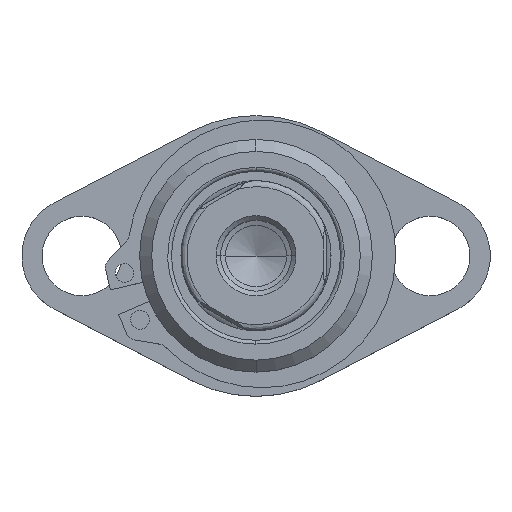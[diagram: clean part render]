
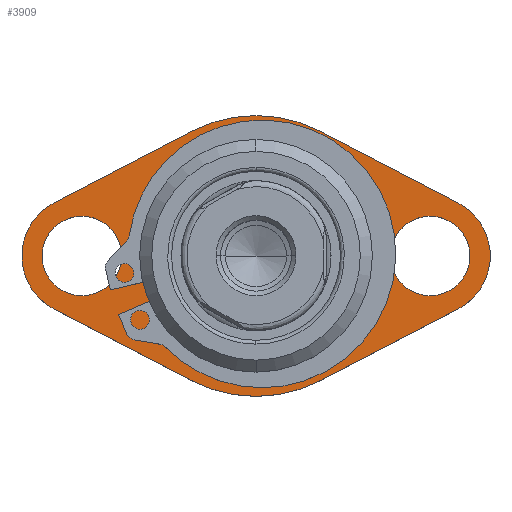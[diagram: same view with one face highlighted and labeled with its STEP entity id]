
A CAD part, top view. The second image highlights one B-rep face of the part: STEP entity #3909.
In plain terms, the highlighted planar face has unit normal (0, 0, 1) as drawn and (0, 1, 0) by its records, which use the part's own axes.
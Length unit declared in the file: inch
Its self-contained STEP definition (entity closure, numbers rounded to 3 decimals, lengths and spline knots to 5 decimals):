
#1 = CARTESIAN_POINT ( 'NONE',  ( 0., 0.25, 0. ) ) ;
#73 = CIRCLE ( 'NONE', #482, 0.775 ) ;
#113 = AXIS2_PLACEMENT_3D ( 'NONE', #2738, #2754, #5270 ) ;
#146 = ORIENTED_EDGE ( 'NONE', *, *, #2349, .T. ) ;
#163 = VERTEX_POINT ( 'NONE', #1307 ) ;
#229 = DIRECTION ( 'NONE',  ( 0., 1., 0. ) ) ;
#308 = LINE ( 'NONE', #4224, #4376 ) ;
#444 = VERTEX_POINT ( 'NONE', #3186 ) ;
#449 = VERTEX_POINT ( 'NONE', #1109 ) ;
#464 = DIRECTION ( 'NONE',  ( 0.887, 0., -0.461 ) ) ;
#476 = VERTEX_POINT ( 'NONE', #1186 ) ;
#482 = AXIS2_PLACEMENT_3D ( 'NONE', #2351, #4040, #1981 ) ;
#505 = FACE_BOUND ( 'NONE', #1018, .T. ) ;
#515 = CIRCLE ( 'NONE', #4706, 0.935 ) ;
#704 = VECTOR ( 'NONE', #4127, 39.37008 ) ;
#712 = EDGE_CURVE ( 'NONE', #3363, #4710, #308, .T. ) ;
#742 = ORIENTED_EDGE ( 'NONE', *, *, #2182, .T. ) ;
#790 = CARTESIAN_POINT ( 'NONE',  ( 0., 0.25, 0. ) ) ;
#831 = VERTEX_POINT ( 'NONE', #3131 ) ;
#832 = CIRCLE ( 'NONE', #113, 0.265 ) ;
#838 = CIRCLE ( 'NONE', #4311, 0.4 ) ;
#999 = EDGE_CURVE ( 'NONE', #831, #476, #515, .T. ) ;
#1006 = EDGE_CURVE ( 'NONE', #5108, #476, #2588, .T. ) ;
#1018 = EDGE_LOOP ( 'NONE', ( #1879, #2378 ) ) ;
#1104 = DIRECTION ( 'NONE',  ( 0., -1., 0. ) ) ;
#1109 = CARTESIAN_POINT ( 'NONE',  ( 1.16, 0.25, 0.265 ) ) ;
#1125 = DIRECTION ( 'NONE',  ( 0., -1., 0. ) ) ;
#1131 = CIRCLE ( 'NONE', #1305, 0.265 ) ;
#1170 = CARTESIAN_POINT ( 'NONE',  ( 1.34448, 0.25, 0.35492 ) ) ;
#1186 = CARTESIAN_POINT ( 'NONE',  ( -0.43123, 0.25, 0.82962 ) ) ;
#1217 = VERTEX_POINT ( 'NONE', #2210 ) ;
#1277 = EDGE_CURVE ( 'NONE', #1217, #3151, #832, .T. ) ;
#1305 = AXIS2_PLACEMENT_3D ( 'NONE', #3621, #1125, #4056 ) ;
#1307 = CARTESIAN_POINT ( 'NONE',  ( 1.16, 0.25, -0.265 ) ) ;
#1315 = CARTESIAN_POINT ( 'NONE',  ( -1.34448, 0.25, 0.35492 ) ) ;
#1335 = DIRECTION ( 'NONE',  ( 0., -1., 0. ) ) ;
#1372 = CARTESIAN_POINT ( 'NONE',  ( 0.43123, 0.25, -0.82962 ) ) ;
#1547 = ORIENTED_EDGE ( 'NONE', *, *, #2218, .F. ) ;
#1553 = ORIENTED_EDGE ( 'NONE', *, *, #3057, .T. ) ;
#1559 = CARTESIAN_POINT ( 'NONE',  ( -1.16, 0.25, -0.265 ) ) ;
#1571 = CARTESIAN_POINT ( 'NONE',  ( 1.16, 0.25, 0. ) ) ;
#1572 = EDGE_CURVE ( 'NONE', #2791, #1783, #4728, .T. ) ;
#1581 = DIRECTION ( 'NONE',  ( 0., -1., 0. ) ) ;
#1617 = CARTESIAN_POINT ( 'NONE',  ( -1.16, 0.25, 0. ) ) ;
#1645 = DIRECTION ( 'NONE',  ( 0., -1., 0. ) ) ;
#1660 = CIRCLE ( 'NONE', #1699, 0.265 ) ;
#1689 = CIRCLE ( 'NONE', #3092, 0.4 ) ;
#1699 = AXIS2_PLACEMENT_3D ( 'NONE', #1571, #4855, #3195 ) ;
#1736 = ORIENTED_EDGE ( 'NONE', *, *, #999, .F. ) ;
#1783 = VERTEX_POINT ( 'NONE', #2306 ) ;
#1807 = ORIENTED_EDGE ( 'NONE', *, *, #4691, .F. ) ;
#1810 = LINE ( 'NONE', #4862, #704 ) ;
#1840 = CARTESIAN_POINT ( 'NONE',  ( 0., 0.25, -0.935 ) ) ;
#1850 = LINE ( 'NONE', #4637, #2295 ) ;
#1858 = AXIS2_PLACEMENT_3D ( 'NONE', #790, #1581, #3674 ) ;
#1879 = ORIENTED_EDGE ( 'NONE', *, *, #2151, .T. ) ;
#1967 = ORIENTED_EDGE ( 'NONE', *, *, #712, .T. ) ;
#1981 = DIRECTION ( 'NONE',  ( 0., 0., -1. ) ) ;
#1990 = DIRECTION ( 'NONE',  ( 0., -1., 0. ) ) ;
#2043 = ORIENTED_EDGE ( 'NONE', *, *, #4893, .T. ) ;
#2092 = ORIENTED_EDGE ( 'NONE', *, *, #2768, .F. ) ;
#2151 = EDGE_CURVE ( 'NONE', #3151, #1217, #1131, .T. ) ;
#2182 = EDGE_CURVE ( 'NONE', #1783, #2791, #73, .T. ) ;
#2210 = CARTESIAN_POINT ( 'NONE',  ( -1.16, 0.25, 0.265 ) ) ;
#2218 = EDGE_CURVE ( 'NONE', #2897, #4710, #2449, .T. ) ;
#2225 = CARTESIAN_POINT ( 'NONE',  ( 1.16, 0.25, 0. ) ) ;
#2295 = VECTOR ( 'NONE', #464, 39.37008 ) ;
#2306 = CARTESIAN_POINT ( 'NONE',  ( 0., 0.25, -0.775 ) ) ;
#2349 = EDGE_CURVE ( 'NONE', #831, #4989, #1850, .T. ) ;
#2351 = CARTESIAN_POINT ( 'NONE',  ( 0., 0.25, 0. ) ) ;
#2357 = DIRECTION ( 'NONE',  ( 0., 0., -1. ) ) ;
#2378 = ORIENTED_EDGE ( 'NONE', *, *, #1277, .T. ) ;
#2449 = CIRCLE ( 'NONE', #1858, 0.935 ) ;
#2480 = CARTESIAN_POINT ( 'NONE',  ( 0., 0.25, 0.775 ) ) ;
#2544 = DIRECTION ( 'NONE',  ( 0., -1., 0. ) ) ;
#2581 = FACE_OUTER_BOUND ( 'NONE', #2767, .T. ) ;
#2588 = LINE ( 'NONE', #3252, #3295 ) ;
#2737 = AXIS2_PLACEMENT_3D ( 'NONE', #1, #1645, #3692 ) ;
#2738 = CARTESIAN_POINT ( 'NONE',  ( -1.16, 0.25, 0. ) ) ;
#2754 = DIRECTION ( 'NONE',  ( 0., -1., 0. ) ) ;
#2757 = ORIENTED_EDGE ( 'NONE', *, *, #4929, .F. ) ;
#2767 = EDGE_LOOP ( 'NONE', ( #2757, #3817, #1736, #146, #1807, #1967, #1547, #2092, #2043 ) ) ;
#2768 = EDGE_CURVE ( 'NONE', #3939, #2897, #2919, .T. ) ;
#2791 = VERTEX_POINT ( 'NONE', #2480 ) ;
#2822 = ORIENTED_EDGE ( 'NONE', *, *, #5327, .T. ) ;
#2835 = ORIENTED_EDGE ( 'NONE', *, *, #1572, .T. ) ;
#2887 = EDGE_LOOP ( 'NONE', ( #1553, #2822 ) ) ;
#2897 = VERTEX_POINT ( 'NONE', #1840 ) ;
#2919 = CIRCLE ( 'NONE', #2737, 0.935 ) ;
#3057 = EDGE_CURVE ( 'NONE', #163, #449, #3554, .T. ) ;
#3092 = AXIS2_PLACEMENT_3D ( 'NONE', #2225, #1335, #5207 ) ;
#3131 = CARTESIAN_POINT ( 'NONE',  ( 0.43123, 0.25, 0.82962 ) ) ;
#3132 = CARTESIAN_POINT ( 'NONE',  ( 0., 0.25, 0. ) ) ;
#3151 = VERTEX_POINT ( 'NONE', #1559 ) ;
#3186 = CARTESIAN_POINT ( 'NONE',  ( -1.34448, 0.25, -0.35492 ) ) ;
#3195 = DIRECTION ( 'NONE',  ( 0., 0., -1. ) ) ;
#3242 = DIRECTION ( 'NONE',  ( 0., 0., -1. ) ) ;
#3252 = CARTESIAN_POINT ( 'NONE',  ( -1.34448, 0.25, 0.35492 ) ) ;
#3289 = FACE_BOUND ( 'NONE', #5089, .T. ) ;
#3295 = VECTOR ( 'NONE', #4501, 39.37008 ) ;
#3363 = VERTEX_POINT ( 'NONE', #4677 ) ;
#3516 = CARTESIAN_POINT ( 'NONE',  ( -0.43123, 0.25, -0.82962 ) ) ;
#3554 = CIRCLE ( 'NONE', #4655, 0.265 ) ;
#3621 = CARTESIAN_POINT ( 'NONE',  ( -1.16, 0.25, 0. ) ) ;
#3627 = DIRECTION ( 'NONE',  ( 0., 0., -1. ) ) ;
#3674 = DIRECTION ( 'NONE',  ( 0., 0., -1. ) ) ;
#3692 = DIRECTION ( 'NONE',  ( 0., 0., -1. ) ) ;
#3817 = ORIENTED_EDGE ( 'NONE', *, *, #1006, .T. ) ;
#3909 = ADVANCED_FACE ( 'NONE', ( #505, #2581, #5114, #3289 ), #3932, .T. ) ;
#3932 = PLANE ( 'NONE',  #4167 ) ;
#3939 = VERTEX_POINT ( 'NONE', #3516 ) ;
#4026 = CARTESIAN_POINT ( 'NONE',  ( 0., 0.25, 0. ) ) ;
#4040 = DIRECTION ( 'NONE',  ( 0., -1., 0. ) ) ;
#4056 = DIRECTION ( 'NONE',  ( 0., 0., -1. ) ) ;
#4127 = DIRECTION ( 'NONE',  ( -0.887, 0., 0.461 ) ) ;
#4167 = AXIS2_PLACEMENT_3D ( 'NONE', #3132, #229, #4351 ) ;
#4224 = CARTESIAN_POINT ( 'NONE',  ( 0.43123, 0.25, -0.82962 ) ) ;
#4252 = DIRECTION ( 'NONE',  ( -0.887, 0., -0.461 ) ) ;
#4311 = AXIS2_PLACEMENT_3D ( 'NONE', #1617, #4978, #3242 ) ;
#4351 = DIRECTION ( 'NONE',  ( 0., 0., 1. ) ) ;
#4376 = VECTOR ( 'NONE', #4252, 39.37008 ) ;
#4396 = CARTESIAN_POINT ( 'NONE',  ( 1.16, 0.25, 0. ) ) ;
#4500 = AXIS2_PLACEMENT_3D ( 'NONE', #4981, #2544, #4590 ) ;
#4501 = DIRECTION ( 'NONE',  ( 0.887, 0., 0.461 ) ) ;
#4590 = DIRECTION ( 'NONE',  ( 0., 0., -1. ) ) ;
#4637 = CARTESIAN_POINT ( 'NONE',  ( 0.43123, 0.25, 0.82962 ) ) ;
#4655 = AXIS2_PLACEMENT_3D ( 'NONE', #4396, #1104, #2357 ) ;
#4677 = CARTESIAN_POINT ( 'NONE',  ( 1.34448, 0.25, -0.35492 ) ) ;
#4691 = EDGE_CURVE ( 'NONE', #3363, #4989, #1689, .T. ) ;
#4706 = AXIS2_PLACEMENT_3D ( 'NONE', #4026, #1990, #3627 ) ;
#4710 = VERTEX_POINT ( 'NONE', #1372 ) ;
#4728 = CIRCLE ( 'NONE', #4500, 0.775 ) ;
#4855 = DIRECTION ( 'NONE',  ( 0., -1., 0. ) ) ;
#4862 = CARTESIAN_POINT ( 'NONE',  ( -1.34448, 0.25, -0.35492 ) ) ;
#4893 = EDGE_CURVE ( 'NONE', #3939, #444, #1810, .T. ) ;
#4929 = EDGE_CURVE ( 'NONE', #5108, #444, #838, .T. ) ;
#4978 = DIRECTION ( 'NONE',  ( 0., -1., 0. ) ) ;
#4981 = CARTESIAN_POINT ( 'NONE',  ( 0., 0.25, 0. ) ) ;
#4989 = VERTEX_POINT ( 'NONE', #1170 ) ;
#5089 = EDGE_LOOP ( 'NONE', ( #742, #2835 ) ) ;
#5108 = VERTEX_POINT ( 'NONE', #1315 ) ;
#5114 = FACE_BOUND ( 'NONE', #2887, .T. ) ;
#5207 = DIRECTION ( 'NONE',  ( 0., 0., -1. ) ) ;
#5270 = DIRECTION ( 'NONE',  ( 0., 0., -1. ) ) ;
#5327 = EDGE_CURVE ( 'NONE', #449, #163, #1660, .T. ) ;
